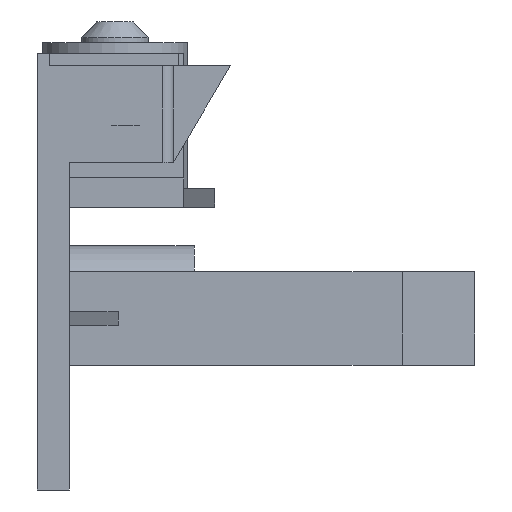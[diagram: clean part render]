
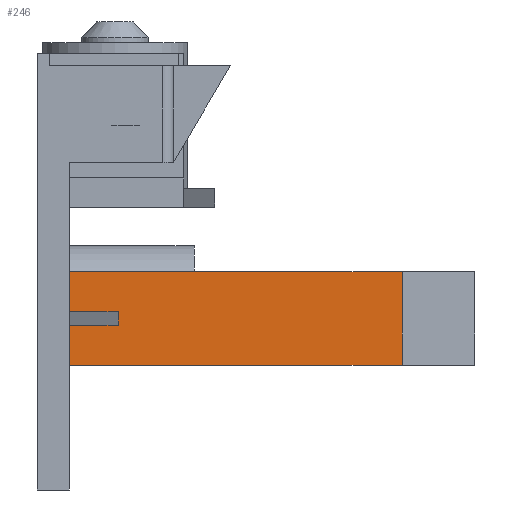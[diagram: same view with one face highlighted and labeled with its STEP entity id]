
A CAD part, front view. The second image highlights one B-rep face of the part: STEP entity #246.
In plain terms, the highlighted planar face has unit normal (0, -1, 0).
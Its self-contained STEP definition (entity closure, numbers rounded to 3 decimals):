
#4 = EDGE_CURVE ( 'NONE', #2023, #41, #2444, .T. ) ;
#41 = VERTEX_POINT ( 'NONE', #1017 ) ;
#57 = CARTESIAN_POINT ( 'NONE',  ( 35.1, 55.5, 21. ) ) ;
#97 = VERTEX_POINT ( 'NONE', #2520 ) ;
#140 = VECTOR ( 'NONE', #146, 1000. ) ;
#146 = DIRECTION ( 'NONE',  ( -1., 0., 0. ) ) ;
#165 = EDGE_CURVE ( 'NONE', #2023, #359, #2099, .T. ) ;
#172 = ORIENTED_EDGE ( 'NONE', *, *, #932, .T. ) ;
#246 = ADVANCED_FACE ( 'NONE', ( #1242 ), #1917, .F. ) ;
#256 = ORIENTED_EDGE ( 'NONE', *, *, #4, .F. ) ;
#359 = VERTEX_POINT ( 'NONE', #1980 ) ;
#383 = VERTEX_POINT ( 'NONE', #2740 ) ;
#403 = EDGE_LOOP ( 'NONE', ( #808, #256, #2160, #771, #2083, #964, #1919, #172 ) ) ;
#413 = VERTEX_POINT ( 'NONE', #57 ) ;
#477 = VECTOR ( 'NONE', #2255, 1000. ) ;
#515 = VECTOR ( 'NONE', #526, 1000. ) ;
#526 = DIRECTION ( 'NONE',  ( -1., 0., 0. ) ) ;
#533 = DIRECTION ( 'NONE',  ( -1., 0., 0. ) ) ;
#536 = LINE ( 'NONE', #1907, #1859 ) ;
#552 = VECTOR ( 'NONE', #1389, 1000. ) ;
#670 = CARTESIAN_POINT ( 'NONE',  ( 3.1, 55.5, 12. ) ) ;
#672 = VECTOR ( 'NONE', #533, 1000. ) ;
#678 = CARTESIAN_POINT ( 'NONE',  ( 3.1, 55.5, 21. ) ) ;
#771 = ORIENTED_EDGE ( 'NONE', *, *, #2762, .T. ) ;
#772 = VECTOR ( 'NONE', #2778, 1000. ) ;
#797 = LINE ( 'NONE', #2281, #772 ) ;
#808 = ORIENTED_EDGE ( 'NONE', *, *, #2643, .T. ) ;
#876 = EDGE_CURVE ( 'NONE', #1683, #413, #536, .T. ) ;
#893 = EDGE_CURVE ( 'NONE', #97, #383, #797, .T. ) ;
#932 = EDGE_CURVE ( 'NONE', #413, #1133, #1841, .T. ) ;
#964 = ORIENTED_EDGE ( 'NONE', *, *, #1550, .F. ) ;
#984 = CARTESIAN_POINT ( 'NONE',  ( 3.1, 55.5, 15.85 ) ) ;
#1017 = CARTESIAN_POINT ( 'NONE',  ( 3.1, 55.5, 17.15 ) ) ;
#1133 = VERTEX_POINT ( 'NONE', #678 ) ;
#1227 = CARTESIAN_POINT ( 'NONE',  ( 35.1, 55.5, 12. ) ) ;
#1242 = FACE_OUTER_BOUND ( 'NONE', #403, .T. ) ;
#1389 = DIRECTION ( 'NONE',  ( -1., 0., 0. ) ) ;
#1550 = EDGE_CURVE ( 'NONE', #1683, #383, #1635, .T. ) ;
#1635 = LINE ( 'NONE', #2477, #672 ) ;
#1683 = VERTEX_POINT ( 'NONE', #1227 ) ;
#1703 = DIRECTION ( 'NONE',  ( 0., 1., 0. ) ) ;
#1717 = CARTESIAN_POINT ( 'NONE',  ( 7.8, 55.5, 17.15 ) ) ;
#1841 = LINE ( 'NONE', #2088, #140 ) ;
#1859 = VECTOR ( 'NONE', #2741, 1000. ) ;
#1901 = DIRECTION ( 'NONE',  ( 0., 0., 1. ) ) ;
#1907 = CARTESIAN_POINT ( 'NONE',  ( 35.1, 55.5, 12. ) ) ;
#1917 = PLANE ( 'NONE',  #1999 ) ;
#1919 = ORIENTED_EDGE ( 'NONE', *, *, #876, .T. ) ;
#1980 = CARTESIAN_POINT ( 'NONE',  ( 7.8, 55.5, 15.85 ) ) ;
#1999 = AXIS2_PLACEMENT_3D ( 'NONE', #2788, #1703, #1901 ) ;
#2023 = VERTEX_POINT ( 'NONE', #2714 ) ;
#2083 = ORIENTED_EDGE ( 'NONE', *, *, #893, .T. ) ;
#2088 = CARTESIAN_POINT ( 'NONE',  ( 42.1, 55.5, 21. ) ) ;
#2099 = LINE ( 'NONE', #1717, #2152 ) ;
#2152 = VECTOR ( 'NONE', #2343, 1000. ) ;
#2160 = ORIENTED_EDGE ( 'NONE', *, *, #165, .T. ) ;
#2255 = DIRECTION ( 'NONE',  ( 0., 0., -1. ) ) ;
#2281 = CARTESIAN_POINT ( 'NONE',  ( 3.1, 55.5, 12. ) ) ;
#2343 = DIRECTION ( 'NONE',  ( 0., 0., -1. ) ) ;
#2444 = LINE ( 'NONE', #2690, #552 ) ;
#2470 = LINE ( 'NONE', #984, #515 ) ;
#2477 = CARTESIAN_POINT ( 'NONE',  ( 42.1, 55.5, 12. ) ) ;
#2520 = CARTESIAN_POINT ( 'NONE',  ( 3.1, 55.5, 15.85 ) ) ;
#2615 = LINE ( 'NONE', #670, #477 ) ;
#2643 = EDGE_CURVE ( 'NONE', #1133, #41, #2615, .T. ) ;
#2690 = CARTESIAN_POINT ( 'NONE',  ( 3.1, 55.5, 17.15 ) ) ;
#2714 = CARTESIAN_POINT ( 'NONE',  ( 7.8, 55.5, 17.15 ) ) ;
#2740 = CARTESIAN_POINT ( 'NONE',  ( 3.1, 55.5, 12. ) ) ;
#2741 = DIRECTION ( 'NONE',  ( 0., 0., 1. ) ) ;
#2762 = EDGE_CURVE ( 'NONE', #359, #97, #2470, .T. ) ;
#2778 = DIRECTION ( 'NONE',  ( 0., 0., -1. ) ) ;
#2788 = CARTESIAN_POINT ( 'NONE',  ( 42.1, 55.5, 12. ) ) ;
